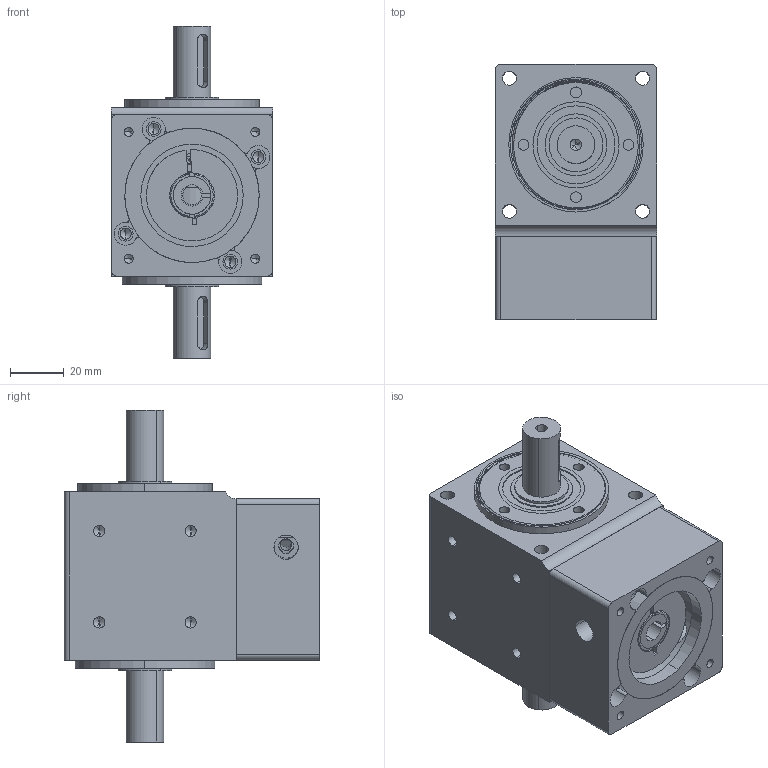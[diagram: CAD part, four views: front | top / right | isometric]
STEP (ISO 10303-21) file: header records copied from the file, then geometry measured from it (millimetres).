
FILE_DESCRIPTION (( 'STEP AP203' ), '1' );
FILE_NAME ('60双轴装配图（步进）.STEP', '2021-01-21T10:00:28', ( 'User' ), ( 'China' ), 'SwSTEP 2.0', 'SolidWorks 2015', '' );
FILE_SCHEMA (( 'CONFIG_CONTROL_DESIGN' ));
Length unit declared in the file: millimetre
Products named in the file (12): 綴楊擘2ㄗ祭輛ㄘ; 褲极; 步进垫圈; 標杶; 14-8粣杶; 蹟譫; 60邧粣蚾饜芞ㄗ祭輛ㄘ; 输入轴; deep groove ball bearings gb_Rolling bearings 6003 GB 276-94; tapered roller bearings gb_Rolling bearings 30204 GB 297-94; 20-32-5蚐猾; 60邧粣怀堤粣
Assembly tree (14 placements, depth 2):
  60邧粣蚾饜芞ㄗ祭輛ㄘ
    褲极
    標杶
    蹟譫  x2
    输入轴
    deep groove ball bearings gb_Rolling bearings 6003 GB 276-94
    tapered roller bearings gb_Rolling bearings 30204 GB 297-94  x2
    20-32-5蚐猾  x2
    60邧粣怀堤粣
    綴楊擘2ㄗ祭輛ㄘ
    步进垫圈
    14-8粣杶
Bounding box: 60 x 95 x 123.5 mm (x, y, z)
Volume: 272512.1 mm3; surface area: 120836.6 mm2
Topology: 14 solids, 14 shells, 815 faces, 2722 edges, 1767 vertices
Faces by surface type: cylinder 263, torus 198, plane 179, cone 129, sphere 34, bspline 12
Entity records: 30390 total; most frequent: CARTESIAN_POINT 12226, ORIENTED_EDGE 3780, DIRECTION 3388, EDGE_CURVE 1890, AXIS2_PLACEMENT_3D 1493, VERTEX_POINT 1250, CIRCLE 860, EDGE_LOOP 758
